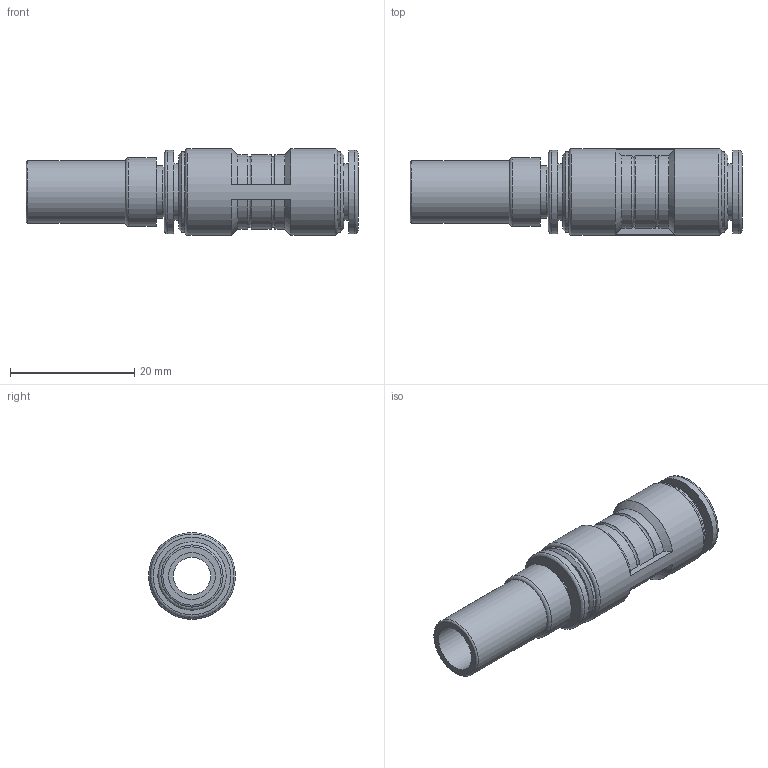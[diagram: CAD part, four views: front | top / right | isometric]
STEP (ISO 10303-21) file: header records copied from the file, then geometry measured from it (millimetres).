
FILE_DESCRIPTION((''),'2;1');
FILE_NAME('E:\2012年度板ﾃﾞｰﾀ\CHIYODA 3D-CAD DATA (Inventor 11)\TOUCH CONNECTOR FIVE (Inventor 11)\[21] REDUCER\[05] FR8-10RC FR8-10RCW.stp','2012-03-21T16:32:34',('kazuhiro.t'),(''),'Autodesk Inventor 11','Autodesk Inventor 11','');
FILE_SCHEMA(('AUTOMOTIVE_DESIGN { 1 0 10303 214 1 1 1 1 }'));
Length unit declared in the file: millimetre
Products named in the file (1): [05] FR8-10RC FR8-10RCW
Bounding box: 53.5 x 14 x 14 mm (x, y, z)
Volume: 3903.3 mm3; surface area: 3849.4 mm2
Topology: 1 solids, 1 shells, 55 faces, 112 edges, 72 vertices
Faces by surface type: bspline 21, cylinder 13, plane 12, torus 6, cone 3
Full cylindrical faces by diameter (mm): 6 x1, 8 x1, 8.5 x1, 9.1 x1, 10 x1, 11 x1, 12.9 x1, 13.5 x1, 14 x1
Entity records: 1806 total; most frequent: CARTESIAN_POINT 799, DIRECTION 192, ORIENTED_EDGE 170, EDGE_LOOP 94, AXIS2_PLACEMENT_3D 88, EDGE_CURVE 85, VERTEX_POINT 69, FACE_OUTER_BOUND 55
